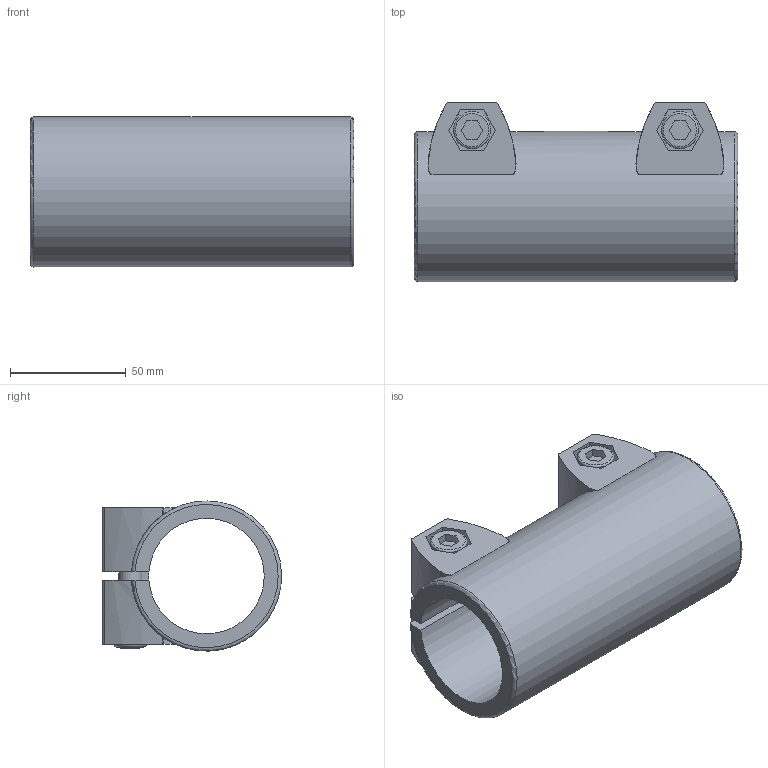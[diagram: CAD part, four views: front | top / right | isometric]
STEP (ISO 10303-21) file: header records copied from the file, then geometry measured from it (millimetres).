
FILE_DESCRIPTION( ( 'STEP AP203' ), '1' );
FILE_NAME( 'C:/Temp/Ganter_Step_05_03_2020/data/3_7/gn242/gn242_2/Tube connector GN 242-B50-B50-2-BL.stp', '2020-03-12T14:40:23', ( 'License CC BY-ND 4.0' ), ( 'CADENAS' ), ' ', 'PARTsolutions', ' ' );
FILE_SCHEMA( ( 'CONFIG_CONTROL_DESIGN' ) );
Length unit declared in the file: millimetre
Products named in the file (1): _Tube connector GN 242-B50-B50-2-BL
Bounding box: 140 x 77.48 x 64.96 mm (x, y, z)
Volume: 245449.1 mm3; surface area: 65763.5 mm2
Topology: 1 solids, 1 shells, 162 faces, 436 edges, 286 vertices
Faces by surface type: plane 84, cylinder 66, torus 8, cone 4
Full cylindrical faces by diameter (mm): 10 x2, 14 x2, 16 x2, 50 x1, 65 x1
Entity records: 5256 total; most frequent: CARTESIAN_POINT 1279, ORIENTED_EDGE 824, DIRECTION 782, EDGE_CURVE 412, VERTEX_POINT 282, AXIS2_PLACEMENT_3D 273, LINE 236, VECTOR 236
